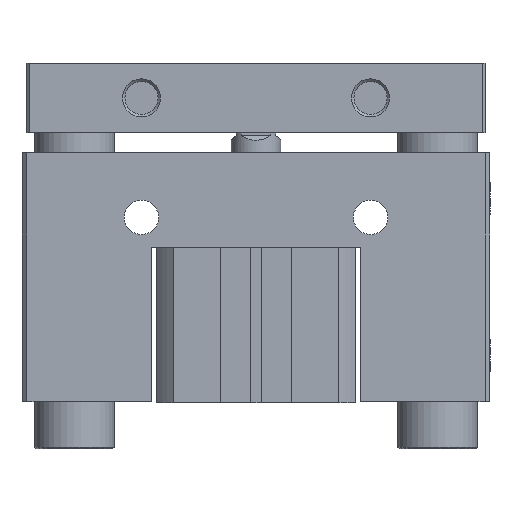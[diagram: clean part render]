
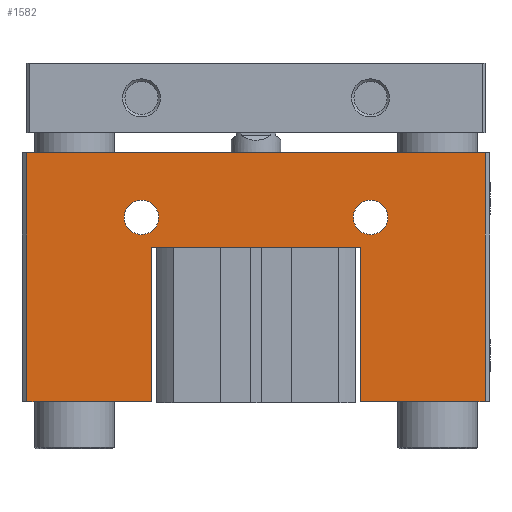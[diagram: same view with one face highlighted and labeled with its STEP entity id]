
A CAD part, front view. The second image highlights one B-rep face of the part: STEP entity #1582.
In plain terms, the highlighted planar face has unit normal (0, -1, 0).
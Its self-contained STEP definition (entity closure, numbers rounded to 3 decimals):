
#1311=CARTESIAN_POINT('',(-48.524,-18.716,50.2));
#1312=VERTEX_POINT('',#1311);
#1319=CARTESIAN_POINT('',(43.476,-18.716,50.2));
#1320=VERTEX_POINT('',#1319);
#1321=CARTESIAN_POINT('',(-48.524,-18.716,50.2));
#1322=DIRECTION('',(1.0,0.0,0.0));
#1323=VECTOR('',#1322,92.);
#1324=LINE('',#1321,#1323);
#1325=EDGE_CURVE('',#1312,#1320,#1324,.T.);
#1488=CARTESIAN_POINT('',(-48.524,-18.716,0.2));
#1489=VERTEX_POINT('',#1488);
#1496=CARTESIAN_POINT('',(-48.524,-18.716,0.2));
#1497=DIRECTION('',(0.0,0.0,1.0));
#1498=VECTOR('',#1497,50.0);
#1499=LINE('',#1496,#1498);
#1500=EDGE_CURVE('',#1489,#1312,#1499,.T.);
#1505=CARTESIAN_POINT('',(-2.524,-18.716,27.237));
#1506=DIRECTION('',(0.0,1.0,0.0));
#1507=DIRECTION('',(0.0,0.0,1.0));
#1508=AXIS2_PLACEMENT_3D('',#1505,#1506,#1507);
#1509=PLANE('',#1508);
#1510=ORIENTED_EDGE('',*,*,#1500,.F.);
#1511=CARTESIAN_POINT('',(-23.524,-18.716,0.2));
#1512=VERTEX_POINT('',#1511);
#1513=CARTESIAN_POINT('',(-23.524,-18.716,0.2));
#1514=DIRECTION('',(-1.0,0.0,0.0));
#1515=VECTOR('',#1514,25.);
#1516=LINE('',#1513,#1515);
#1517=EDGE_CURVE('',#1512,#1489,#1516,.T.);
#1518=ORIENTED_EDGE('',*,*,#1517,.F.);
#1519=CARTESIAN_POINT('',(-23.524,-18.716,31.2));
#1520=VERTEX_POINT('',#1519);
#1521=CARTESIAN_POINT('',(-23.524,-18.716,31.2));
#1522=DIRECTION('',(0.0,0.0,-1.0));
#1523=VECTOR('',#1522,31.);
#1524=LINE('',#1521,#1523);
#1525=EDGE_CURVE('',#1520,#1512,#1524,.T.);
#1526=ORIENTED_EDGE('',*,*,#1525,.F.);
#1527=CARTESIAN_POINT('',(18.476,-18.716,31.2));
#1528=VERTEX_POINT('',#1527);
#1529=CARTESIAN_POINT('',(18.476,-18.716,31.2));
#1530=DIRECTION('',(-1.0,0.0,0.0));
#1531=VECTOR('',#1530,42.);
#1532=LINE('',#1529,#1531);
#1533=EDGE_CURVE('',#1528,#1520,#1532,.T.);
#1534=ORIENTED_EDGE('',*,*,#1533,.F.);
#1535=CARTESIAN_POINT('',(18.476,-18.716,0.2));
#1536=VERTEX_POINT('',#1535);
#1537=CARTESIAN_POINT('',(18.476,-18.716,0.2));
#1538=DIRECTION('',(0.0,0.0,1.0));
#1539=VECTOR('',#1538,31.);
#1540=LINE('',#1537,#1539);
#1541=EDGE_CURVE('',#1536,#1528,#1540,.T.);
#1542=ORIENTED_EDGE('',*,*,#1541,.F.);
#1543=CARTESIAN_POINT('',(43.476,-18.716,0.2));
#1544=VERTEX_POINT('',#1543);
#1545=CARTESIAN_POINT('',(43.476,-18.716,0.2));
#1546=DIRECTION('',(-1.0,0.0,0.0));
#1547=VECTOR('',#1546,25.);
#1548=LINE('',#1545,#1547);
#1549=EDGE_CURVE('',#1544,#1536,#1548,.T.);
#1550=ORIENTED_EDGE('',*,*,#1549,.F.);
#1551=CARTESIAN_POINT('',(43.476,-18.716,50.2));
#1552=DIRECTION('',(0.0,0.0,-1.0));
#1553=VECTOR('',#1552,50.0);
#1554=LINE('',#1551,#1553);
#1555=EDGE_CURVE('',#1320,#1544,#1554,.T.);
#1556=ORIENTED_EDGE('',*,*,#1555,.F.);
#1557=ORIENTED_EDGE('',*,*,#1325,.F.);
#1558=EDGE_LOOP('',(#1510,#1518,#1526,#1534,#1542,#1550,#1556,#1557));
#1559=FACE_OUTER_BOUND('',#1558,.T.);
#1560=CARTESIAN_POINT('',(-28.974,-18.716,37.2));
#1561=VERTEX_POINT('',#1560);
#1562=CARTESIAN_POINT('',(-25.524,-18.716,37.2));
#1563=DIRECTION('',(0.0,1.0,0.0));
#1564=DIRECTION('',(1.0,0.0,0.0));
#1565=AXIS2_PLACEMENT_3D('',#1562,#1563,#1564);
#1566=CIRCLE('',#1565,3.45);
#1567=EDGE_CURVE('',#1561,#1561,#1566,.T.);
#1568=ORIENTED_EDGE('',*,*,#1567,.T.);
#1569=EDGE_LOOP('',(#1568));
#1570=FACE_BOUND('',#1569,.T.);
#1571=CARTESIAN_POINT('',(17.026,-18.716,37.2));
#1572=VERTEX_POINT('',#1571);
#1573=CARTESIAN_POINT('',(20.476,-18.716,37.2));
#1574=DIRECTION('',(0.0,1.0,0.0));
#1575=DIRECTION('',(1.0,0.0,0.0));
#1576=AXIS2_PLACEMENT_3D('',#1573,#1574,#1575);
#1577=CIRCLE('',#1576,3.45);
#1578=EDGE_CURVE('',#1572,#1572,#1577,.T.);
#1579=ORIENTED_EDGE('',*,*,#1578,.T.);
#1580=EDGE_LOOP('',(#1579));
#1581=FACE_BOUND('',#1580,.T.);
#1582=ADVANCED_FACE('',(#1559,#1570,#1581),#1509,.F.);
